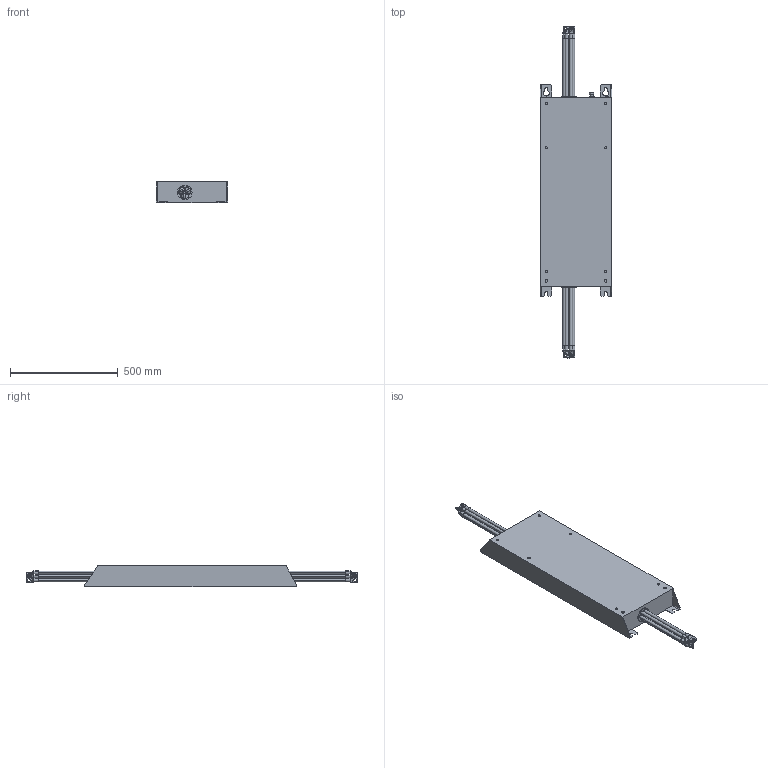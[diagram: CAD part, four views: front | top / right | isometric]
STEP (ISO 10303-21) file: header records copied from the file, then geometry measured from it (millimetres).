
FILE_DESCRIPTION (( 'STEP AP214' ), '1' );
FILE_NAME ('00E6X00-0028.STEP', '2023-07-12T08:52:11', ( '' ), ( '' ), 'SwSTEP 2.0', 'SolidWorks 2022', '' );
FILE_SCHEMA (( 'AUTOMOTIVE_DESIGN' ));
Length unit declared in the file: millimetre
Products named in the file (1): 00E6X00-0028
Bounding box: 330 x 1542.36 x 98 mm (x, y, z)
Volume: 29188363.1 mm3; surface area: 1042070.7 mm2
Topology: 1 solids, 3 shells, 431 faces, 1100 edges, 706 vertices
Faces by surface type: cylinder 167, plane 148, bspline 109, cone 5, torus 2
Entity records: 20097 total; most frequent: CARTESIAN_POINT 10324, ORIENTED_EDGE 2200, DIRECTION 1560, EDGE_CURVE 1100, VERTEX_POINT 706, AXIS2_PLACEMENT_3D 560, EDGE_LOOP 490, VECTOR 440
